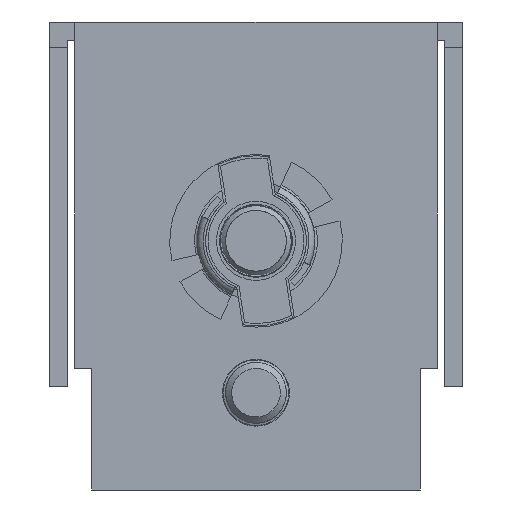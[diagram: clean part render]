
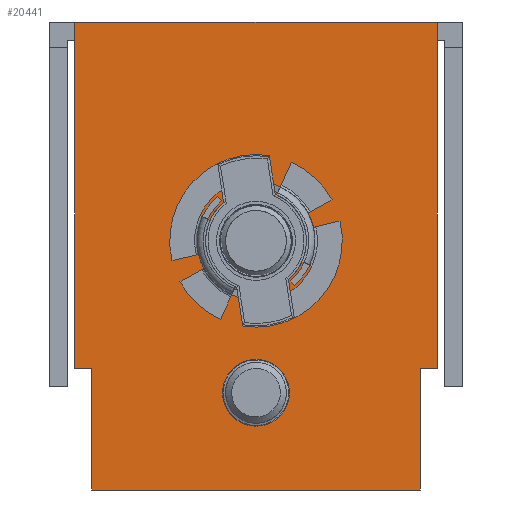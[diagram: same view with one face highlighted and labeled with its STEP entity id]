
A CAD part, left-side view. The second image highlights one B-rep face of the part: STEP entity #20441.
In plain terms, the highlighted planar face has unit normal (-1, 0, 0).
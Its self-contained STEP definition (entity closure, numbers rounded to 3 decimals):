
#1738 = VERTEX_POINT('',#1739);
#1739 = CARTESIAN_POINT('',(-149.,-14.9,1.5));
#1818 = VERTEX_POINT('',#1819);
#1819 = CARTESIAN_POINT('',(-149.,14.9,1.5));
#1825 = EDGE_CURVE('',#1818,#1738,#1826,.T.);
#1826 = LINE('',#1827,#1828);
#1827 = CARTESIAN_POINT('',(-149.,0.,1.5));
#1828 = VECTOR('',#1829,1.);
#1829 = DIRECTION('',(0.,-1.,0.));
#20329 = VERTEX_POINT('',#20330);
#20330 = CARTESIAN_POINT('',(-149.,14.9,-0.6));
#20336 = EDGE_CURVE('',#20329,#1818,#20337,.T.);
#20337 = LINE('',#20338,#20339);
#20338 = CARTESIAN_POINT('',(-149.,14.9,0.));
#20339 = VECTOR('',#20340,1.);
#20340 = DIRECTION('',(0.,0.,1.));
#20354 = VERTEX_POINT('',#20355);
#20355 = CARTESIAN_POINT('',(-149.,-14.9,-0.6));
#20369 = EDGE_CURVE('',#20354,#1738,#20370,.T.);
#20370 = LINE('',#20371,#20372);
#20371 = CARTESIAN_POINT('',(-149.,-14.9,-0.6));
#20372 = VECTOR('',#20373,1.);
#20373 = DIRECTION('',(0.,0.,1.));
#20392 = VERTEX_POINT('',#20393);
#20393 = CARTESIAN_POINT('',(-149.,14.9,-27.));
#20399 = EDGE_CURVE('',#20329,#20392,#20400,.T.);
#20400 = LINE('',#20401,#20402);
#20401 = CARTESIAN_POINT('',(-149.,14.9,-37.));
#20402 = VECTOR('',#20403,1.);
#20403 = DIRECTION('',(0.,0.,-1.));
#20414 = EDGE_CURVE('',#20415,#20354,#20417,.T.);
#20415 = VERTEX_POINT('',#20416);
#20416 = CARTESIAN_POINT('',(-149.,-14.9,-27.));
#20417 = LINE('',#20418,#20419);
#20418 = CARTESIAN_POINT('',(-149.,-14.9,0.));
#20419 = VECTOR('',#20420,1.);
#20420 = DIRECTION('',(0.,0.,1.));
#20441 = ADVANCED_FACE('',(#20442,#20453,#20464),#20509,.F.);
#20442 = FACE_BOUND('',#20443,.T.);
#20443 = EDGE_LOOP('',(#20444));
#20444 = ORIENTED_EDGE('',*,*,#20445,.T.);
#20445 = EDGE_CURVE('',#20446,#20446,#20448,.T.);
#20446 = VERTEX_POINT('',#20447);
#20447 = CARTESIAN_POINT('',(-149.,0.,-19.75));
#20448 = CIRCLE('',#20449,3.25);
#20449 = AXIS2_PLACEMENT_3D('',#20450,#20451,#20452);
#20450 = CARTESIAN_POINT('',(-149.,0.,-16.5));
#20451 = DIRECTION('',(1.,0.,0.));
#20452 = DIRECTION('',(0.,0.,-1.));
#20453 = FACE_BOUND('',#20454,.T.);
#20454 = EDGE_LOOP('',(#20455));
#20455 = ORIENTED_EDGE('',*,*,#20456,.T.);
#20456 = EDGE_CURVE('',#20457,#20457,#20459,.T.);
#20457 = VERTEX_POINT('',#20458);
#20458 = CARTESIAN_POINT('',(-149.,0.,-31.75));
#20459 = CIRCLE('',#20460,2.75);
#20460 = AXIS2_PLACEMENT_3D('',#20461,#20462,#20463);
#20461 = CARTESIAN_POINT('',(-149.,0.,-29.));
#20462 = DIRECTION('',(1.,0.,0.));
#20463 = DIRECTION('',(0.,0.,-1.));
#20464 = FACE_BOUND('',#20465,.T.);
#20465 = EDGE_LOOP('',(#20466,#20476,#20482,#20483,#20484,#20485,#20486,
    #20487,#20495,#20503));
#20466 = ORIENTED_EDGE('',*,*,#20467,.T.);
#20467 = EDGE_CURVE('',#20468,#20470,#20472,.T.);
#20468 = VERTEX_POINT('',#20469);
#20469 = CARTESIAN_POINT('',(-149.,-13.5,-37.));
#20470 = VERTEX_POINT('',#20471);
#20471 = CARTESIAN_POINT('',(-149.,-13.5,-27.));
#20472 = LINE('',#20473,#20474);
#20473 = CARTESIAN_POINT('',(-149.,-13.5,-37.));
#20474 = VECTOR('',#20475,1.);
#20475 = DIRECTION('',(0.,0.,1.));
#20476 = ORIENTED_EDGE('',*,*,#20477,.T.);
#20477 = EDGE_CURVE('',#20470,#20415,#20478,.T.);
#20478 = LINE('',#20479,#20480);
#20479 = CARTESIAN_POINT('',(-149.,-14.9,-27.));
#20480 = VECTOR('',#20481,1.);
#20481 = DIRECTION('',(-0.,-1.,-0.));
#20482 = ORIENTED_EDGE('',*,*,#20414,.T.);
#20483 = ORIENTED_EDGE('',*,*,#20369,.T.);
#20484 = ORIENTED_EDGE('',*,*,#1825,.F.);
#20485 = ORIENTED_EDGE('',*,*,#20336,.F.);
#20486 = ORIENTED_EDGE('',*,*,#20399,.T.);
#20487 = ORIENTED_EDGE('',*,*,#20488,.T.);
#20488 = EDGE_CURVE('',#20392,#20489,#20491,.T.);
#20489 = VERTEX_POINT('',#20490);
#20490 = CARTESIAN_POINT('',(-149.,13.5,-27.));
#20491 = LINE('',#20492,#20493);
#20492 = CARTESIAN_POINT('',(-149.,14.9,-27.));
#20493 = VECTOR('',#20494,1.);
#20494 = DIRECTION('',(0.,-1.,0.));
#20495 = ORIENTED_EDGE('',*,*,#20496,.T.);
#20496 = EDGE_CURVE('',#20489,#20497,#20499,.T.);
#20497 = VERTEX_POINT('',#20498);
#20498 = CARTESIAN_POINT('',(-149.,13.5,-37.));
#20499 = LINE('',#20500,#20501);
#20500 = CARTESIAN_POINT('',(-149.,13.5,-37.));
#20501 = VECTOR('',#20502,1.);
#20502 = DIRECTION('',(0.,0.,-1.));
#20503 = ORIENTED_EDGE('',*,*,#20504,.T.);
#20504 = EDGE_CURVE('',#20497,#20468,#20505,.T.);
#20505 = LINE('',#20506,#20507);
#20506 = CARTESIAN_POINT('',(-149.,-14.9,-37.));
#20507 = VECTOR('',#20508,1.);
#20508 = DIRECTION('',(0.,-1.,0.));
#20509 = PLANE('',#20510);
#20510 = AXIS2_PLACEMENT_3D('',#20511,#20512,#20513);
#20511 = CARTESIAN_POINT('',(-149.,0.,
    0.));
#20512 = DIRECTION('',(1.,0.,0.));
#20513 = DIRECTION('',(0.,0.,-1.));
